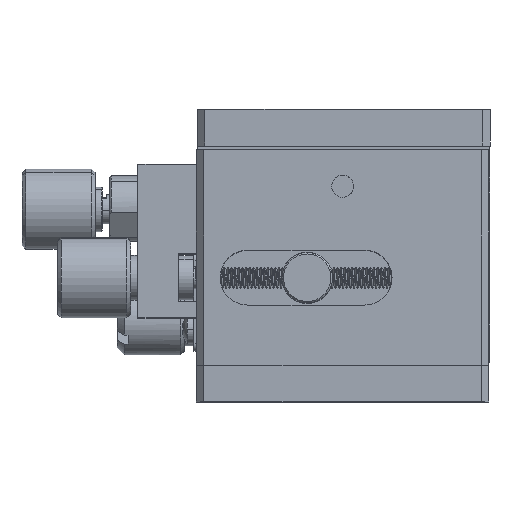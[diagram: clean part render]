
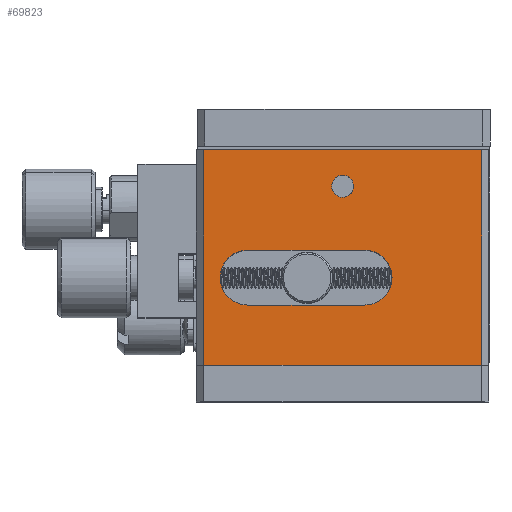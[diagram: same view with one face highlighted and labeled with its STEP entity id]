
A CAD part, top view. The second image highlights one B-rep face of the part: STEP entity #69823.
In plain terms, the highlighted planar face has unit normal (0, 0, 1).
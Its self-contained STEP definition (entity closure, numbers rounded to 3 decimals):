
#1259 = EDGE_CURVE ( 'NONE', #27414, #56604, #67456, .T. ) ;
#1447 = DIRECTION ( 'NONE',  ( -1., 0., 0. ) ) ;
#5418 = CARTESIAN_POINT ( 'NONE',  ( 16.408, 35.697, 18.556 ) ) ;
#6675 = ORIENTED_EDGE ( 'NONE', *, *, #7122, .T. ) ;
#7122 = EDGE_CURVE ( 'NONE', #35271, #70073, #122019, .T. ) ;
#9511 = EDGE_LOOP ( 'NONE', ( #118541, #98536 ) ) ;
#10120 = AXIS2_PLACEMENT_3D ( 'NONE', #87805, #66065, #96017 ) ;
#12583 = CARTESIAN_POINT ( 'NONE',  ( 16.408, 28.197, 18.556 ) ) ;
#13539 = CARTESIAN_POINT ( 'NONE',  ( 0.408, 35.697, 18.556 ) ) ;
#17786 = ORIENTED_EDGE ( 'NONE', *, *, #89427, .F. ) ;
#17969 = CARTESIAN_POINT ( 'NONE',  ( 33.408, 49.447, 18.556 ) ) ;
#21791 = FACE_BOUND ( 'NONE', #9511, .T. ) ;
#22630 = VERTEX_POINT ( 'NONE', #109286 ) ;
#23894 = VECTOR ( 'NONE', #131487, 1000. ) ;
#24836 = EDGE_CURVE ( 'NONE', #22630, #47344, #47611, .T. ) ;
#25326 = EDGE_CURVE ( 'NONE', #56604, #58531, #112815, .T. ) ;
#27414 = VERTEX_POINT ( 'NONE', #13539 ) ;
#29026 = VECTOR ( 'NONE', #50084, 1000. ) ;
#32651 = PLANE ( 'NONE',  #82703 ) ;
#32903 = CARTESIAN_POINT ( 'NONE',  ( 0.408, 31.947, 18.556 ) ) ;
#33028 = DIRECTION ( 'NONE',  ( 0., 0., 1. ) ) ;
#34775 = VECTOR ( 'NONE', #66686, 1000. ) ;
#35271 = VERTEX_POINT ( 'NONE', #90169 ) ;
#39227 = LINE ( 'NONE', #111279, #29026 ) ;
#40846 = DIRECTION ( 'NONE',  ( 0., 0., -1. ) ) ;
#47344 = VERTEX_POINT ( 'NONE', #100739 ) ;
#47352 = AXIS2_PLACEMENT_3D ( 'NONE', #76514, #33028, #117959 ) ;
#47611 = LINE ( 'NONE', #76245, #34775 ) ;
#47635 = VECTOR ( 'NONE', #1447, 1000. ) ;
#48236 = DIRECTION ( 'NONE',  ( 0., 0., 1. ) ) ;
#49228 = LINE ( 'NONE', #17969, #23894 ) ;
#50084 = DIRECTION ( 'NONE',  ( -1., 0., 0. ) ) ;
#50280 = DIRECTION ( 'NONE',  ( 1., 0., 0. ) ) ;
#51017 = DIRECTION ( 'NONE',  ( 0., 1., 0. ) ) ;
#51341 = CIRCLE ( 'NONE', #10120, 3.75 ) ;
#56604 = VERTEX_POINT ( 'NONE', #114046 ) ;
#57927 = LINE ( 'NONE', #104107, #47635 ) ;
#58115 = CIRCLE ( 'NONE', #110121, 1.5 ) ;
#58531 = VERTEX_POINT ( 'NONE', #12583 ) ;
#60559 = FACE_BOUND ( 'NONE', #117972, .T. ) ;
#66065 = DIRECTION ( 'NONE',  ( 0., 0., 1. ) ) ;
#66166 = DIRECTION ( 'NONE',  ( 0., -1., 0. ) ) ;
#66686 = DIRECTION ( 'NONE',  ( 0., -1., 0. ) ) ;
#67132 = EDGE_CURVE ( 'NONE', #70073, #22630, #49228, .T. ) ;
#67456 = CIRCLE ( 'NONE', #104447, 3.75 ) ;
#67551 = VERTEX_POINT ( 'NONE', #121307 ) ;
#68207 = EDGE_LOOP ( 'NONE', ( #78761, #6675, #87278, #125040 ) ) ;
#69046 = VERTEX_POINT ( 'NONE', #117108 ) ;
#69823 = ADVANCED_FACE ( 'NONE', ( #21791, #60559, #113557 ), #32651, .F. ) ;
#69974 = VECTOR ( 'NONE', #92101, 1000. ) ;
#70073 = VERTEX_POINT ( 'NONE', #123791 ) ;
#70656 = CARTESIAN_POINT ( 'NONE',  ( 13.408, 44.447, 18.556 ) ) ;
#76245 = CARTESIAN_POINT ( 'NONE',  ( -5.592, 19.947, 18.556 ) ) ;
#76514 = CARTESIAN_POINT ( 'NONE',  ( 13.408, 44.447, 18.556 ) ) ;
#78761 = ORIENTED_EDGE ( 'NONE', *, *, #101689, .F. ) ;
#82703 = AXIS2_PLACEMENT_3D ( 'NONE', #124456, #40846, #51017 ) ;
#85244 = DIRECTION ( 'NONE',  ( 0., 0., 1. ) ) ;
#87278 = ORIENTED_EDGE ( 'NONE', *, *, #67132, .T. ) ;
#87805 = CARTESIAN_POINT ( 'NONE',  ( 16.408, 31.947, 18.556 ) ) ;
#88128 = ORIENTED_EDGE ( 'NONE', *, *, #132396, .F. ) ;
#89427 = EDGE_CURVE ( 'NONE', #58531, #128478, #51341, .T. ) ;
#89795 = ORIENTED_EDGE ( 'NONE', *, *, #25326, .F. ) ;
#90169 = CARTESIAN_POINT ( 'NONE',  ( 32.408, 19.947, 18.556 ) ) ;
#92101 = DIRECTION ( 'NONE',  ( 0., 1., 0. ) ) ;
#96017 = DIRECTION ( 'NONE',  ( 0., -1., 0. ) ) ;
#98536 = ORIENTED_EDGE ( 'NONE', *, *, #122793, .F. ) ;
#100739 = CARTESIAN_POINT ( 'NONE',  ( -5.592, 19.947, 18.556 ) ) ;
#101689 = EDGE_CURVE ( 'NONE', #35271, #47344, #57927, .T. ) ;
#102634 = CARTESIAN_POINT ( 'NONE',  ( 0.408, 28.197, 18.556 ) ) ;
#104107 = CARTESIAN_POINT ( 'NONE',  ( 33.408, 19.947, 18.556 ) ) ;
#104447 = AXIS2_PLACEMENT_3D ( 'NONE', #32903, #85244, #66166 ) ;
#106368 = VECTOR ( 'NONE', #50280, 1000. ) ;
#108114 = CIRCLE ( 'NONE', #47352, 1.5 ) ;
#109286 = CARTESIAN_POINT ( 'NONE',  ( -5.592, 49.447, 18.556 ) ) ;
#110121 = AXIS2_PLACEMENT_3D ( 'NONE', #70656, #48236, #132520 ) ;
#111279 = CARTESIAN_POINT ( 'NONE',  ( 0.408, 35.697, 18.556 ) ) ;
#111786 = CARTESIAN_POINT ( 'NONE',  ( 32.408, 49.447, 18.556 ) ) ;
#112815 = LINE ( 'NONE', #102634, #106368 ) ;
#113557 = FACE_OUTER_BOUND ( 'NONE', #68207, .T. ) ;
#114046 = CARTESIAN_POINT ( 'NONE',  ( 0.408, 28.197, 18.556 ) ) ;
#114556 = ORIENTED_EDGE ( 'NONE', *, *, #1259, .F. ) ;
#117108 = CARTESIAN_POINT ( 'NONE',  ( 14.908, 44.447, 18.556 ) ) ;
#117959 = DIRECTION ( 'NONE',  ( 1., 0., 0. ) ) ;
#117972 = EDGE_LOOP ( 'NONE', ( #89795, #114556, #88128, #17786 ) ) ;
#118541 = ORIENTED_EDGE ( 'NONE', *, *, #119514, .F. ) ;
#119514 = EDGE_CURVE ( 'NONE', #69046, #67551, #108114, .T. ) ;
#121307 = CARTESIAN_POINT ( 'NONE',  ( 11.908, 44.447, 18.556 ) ) ;
#122019 = LINE ( 'NONE', #111786, #69974 ) ;
#122793 = EDGE_CURVE ( 'NONE', #67551, #69046, #58115, .T. ) ;
#123791 = CARTESIAN_POINT ( 'NONE',  ( 32.408, 49.447, 18.556 ) ) ;
#124456 = CARTESIAN_POINT ( 'NONE',  ( 33.408, 49.447, 18.556 ) ) ;
#125040 = ORIENTED_EDGE ( 'NONE', *, *, #24836, .T. ) ;
#128478 = VERTEX_POINT ( 'NONE', #5418 ) ;
#131487 = DIRECTION ( 'NONE',  ( -1., 0., 0. ) ) ;
#132396 = EDGE_CURVE ( 'NONE', #128478, #27414, #39227, .T. ) ;
#132520 = DIRECTION ( 'NONE',  ( 1., 0., 0. ) ) ;
